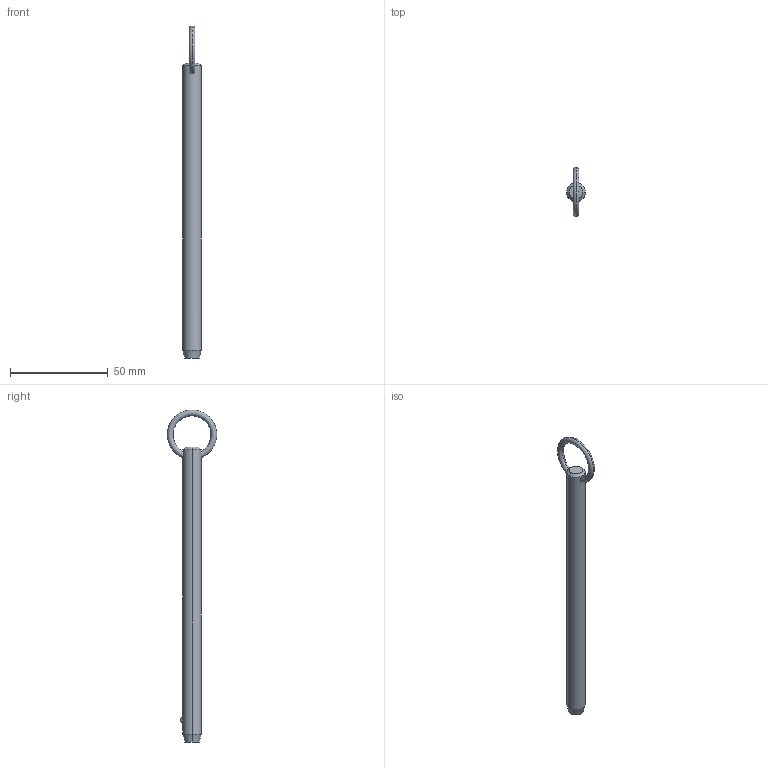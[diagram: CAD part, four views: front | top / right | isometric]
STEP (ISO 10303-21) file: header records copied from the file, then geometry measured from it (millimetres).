
FILE_DESCRIPTION (( 'STEP AP203' ), '1' );
FILE_NAME ('P1250.037-520.step', '2019-07-29T20:13:00', ( '' ), ( '' ), 'SwSTEP 2.0', 'SolidWorks 2017', '' );
FILE_SCHEMA (( 'CONFIG_CONTROL_DESIGN' ));
Length unit declared in the file: millimetre
Products named in the file (1): P1250.037-520
Bounding box: 9.52 x 25.39 x 170.2 mm (x, y, z)
Volume: 11110.2 mm3; surface area: 5162.8 mm2
Topology: 1 solids, 1 shells, 12 faces, 28 edges, 17 vertices
Faces by surface type: cone 4, torus 2, sphere 2, cylinder 2, plane 2
Entity records: 523 total; most frequent: CARTESIAN_POINT 190, DIRECTION 56, ORIENTED_EDGE 48, AXIS2_PLACEMENT_3D 25, EDGE_CURVE 24, EDGE_LOOP 15, VERTEX_POINT 15, FACE_OUTER_BOUND 12
